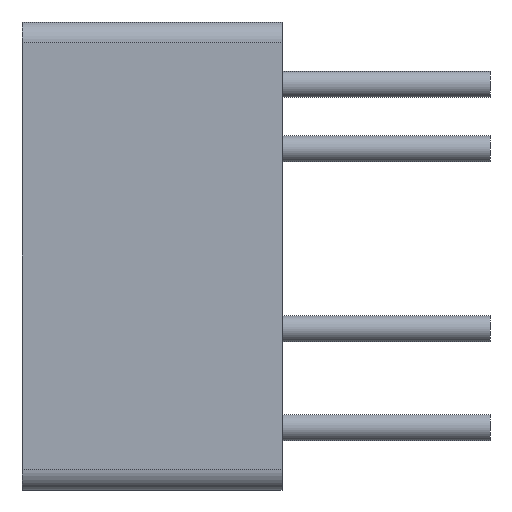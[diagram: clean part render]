
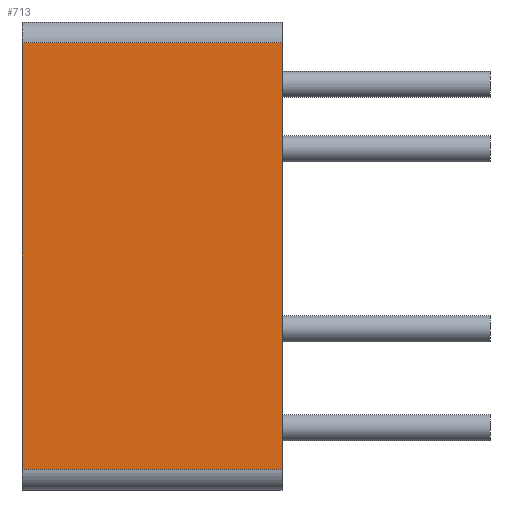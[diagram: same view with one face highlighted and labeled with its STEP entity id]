
A CAD part, left-side view. The second image highlights one B-rep face of the part: STEP entity #713.
In plain terms, the highlighted planar face has unit normal (-1, 0, 0).
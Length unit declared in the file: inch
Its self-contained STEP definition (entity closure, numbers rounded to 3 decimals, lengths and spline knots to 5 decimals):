
#6 = LINE ( 'NONE', #665, #669 ) ;
#50 = LINE ( 'NONE', #535, #182 ) ;
#59 = LINE ( 'NONE', #178, #563 ) ;
#95 = DIRECTION ( 'NONE',  ( 0., 1., 0. ) ) ;
#98 = VERTEX_POINT ( 'NONE', #742 ) ;
#103 = EDGE_CURVE ( 'NONE', #98, #248, #6, .T. ) ;
#106 = DIRECTION ( 'NONE',  ( 0., 0., -1. ) ) ;
#176 = CARTESIAN_POINT ( 'NONE',  ( 0., 0.25, -0.02 ) ) ;
#178 = CARTESIAN_POINT ( 'NONE',  ( 0., 0., 0. ) ) ;
#179 = DIRECTION ( 'NONE',  ( 0., 0., 1. ) ) ;
#182 = VECTOR ( 'NONE', #266, 39.37008 ) ;
#186 = ORIENTED_EDGE ( 'NONE', *, *, #262, .T. ) ;
#222 = CARTESIAN_POINT ( 'NONE',  ( 0., 0.25, 0. ) ) ;
#248 = VERTEX_POINT ( 'NONE', #176 ) ;
#262 = EDGE_CURVE ( 'NONE', #801, #98, #59, .T. ) ;
#266 = DIRECTION ( 'NONE',  ( 0., -1., 0. ) ) ;
#372 = ORIENTED_EDGE ( 'NONE', *, *, #615, .F. ) ;
#391 = CARTESIAN_POINT ( 'NONE',  ( 0., 0.25, 0. ) ) ;
#413 = ORIENTED_EDGE ( 'NONE', *, *, #103, .T. ) ;
#432 = CARTESIAN_POINT ( 'NONE',  ( 0., 0.25, -0.43 ) ) ;
#474 = EDGE_CURVE ( 'NONE', #705, #801, #50, .T. ) ;
#520 = CARTESIAN_POINT ( 'NONE',  ( 0., 0., -0.43 ) ) ;
#535 = CARTESIAN_POINT ( 'NONE',  ( 0., 0.25, -0.43 ) ) ;
#545 = ORIENTED_EDGE ( 'NONE', *, *, #474, .T. ) ;
#551 = FACE_OUTER_BOUND ( 'NONE', #773, .T. ) ;
#554 = AXIS2_PLACEMENT_3D ( 'NONE', #391, #583, #106 ) ;
#563 = VECTOR ( 'NONE', #179, 39.37008 ) ;
#583 = DIRECTION ( 'NONE',  ( 1., 0., 0. ) ) ;
#615 = EDGE_CURVE ( 'NONE', #705, #248, #725, .T. ) ;
#632 = VECTOR ( 'NONE', #793, 39.37008 ) ;
#665 = CARTESIAN_POINT ( 'NONE',  ( 0., 0.25, -0.02 ) ) ;
#669 = VECTOR ( 'NONE', #95, 39.37008 ) ;
#688 = PLANE ( 'NONE',  #554 ) ;
#705 = VERTEX_POINT ( 'NONE', #432 ) ;
#713 = ADVANCED_FACE ( 'NONE', ( #551 ), #688, .F. ) ;
#725 = LINE ( 'NONE', #222, #632 ) ;
#742 = CARTESIAN_POINT ( 'NONE',  ( 0., 0., -0.02 ) ) ;
#773 = EDGE_LOOP ( 'NONE', ( #372, #545, #186, #413 ) ) ;
#793 = DIRECTION ( 'NONE',  ( 0., 0., 1. ) ) ;
#801 = VERTEX_POINT ( 'NONE', #520 ) ;
